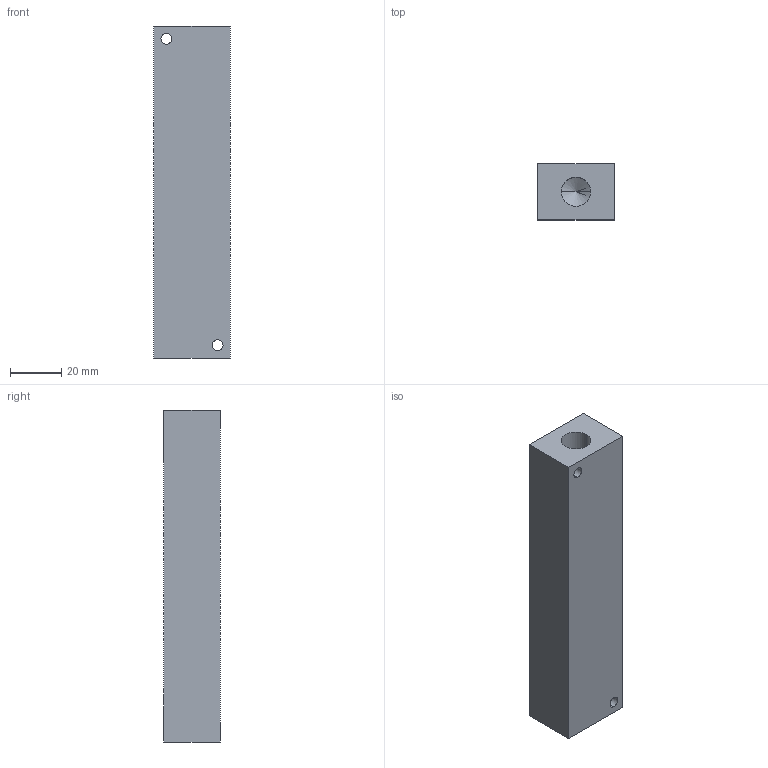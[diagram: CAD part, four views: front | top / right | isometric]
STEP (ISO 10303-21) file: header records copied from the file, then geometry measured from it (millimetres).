
FILE_DESCRIPTION (( 'STEP AP214' ), '1' );
FILE_NAME ('165169-00_Montageplatte SFC6000 Downmount.step', '2023-03-27T11:20:08', ( '' ), ( '' ), 'SwSTEP 2.0', 'SolidWorks 2021', '' );
FILE_SCHEMA (( 'AUTOMOTIVE_DESIGN' ));
Length unit declared in the file: millimetre
Products named in the file (1): 165169-00_Montageplatte SFC6000 Downmount
Bounding box: 30 x 22 x 130 mm (x, y, z)
Volume: 79862.7 mm3; surface area: 17266 mm2
Topology: 1 solids, 1 shells, 50 faces, 122 edges, 70 vertices
Faces by surface type: cylinder 28, cone 12, plane 10
Entity records: 1714 total; most frequent: CARTESIAN_POINT 383, DIRECTION 262, ORIENTED_EDGE 220, EDGE_CURVE 110, AXIS2_PLACEMENT_3D 105, VERTEX_POINT 70, EDGE_LOOP 66, CIRCLE 54
